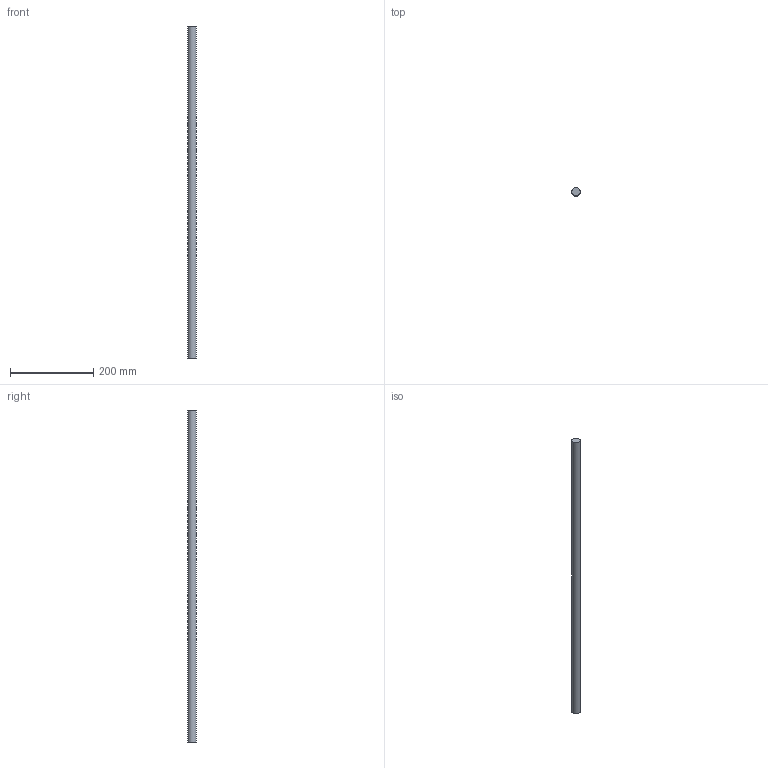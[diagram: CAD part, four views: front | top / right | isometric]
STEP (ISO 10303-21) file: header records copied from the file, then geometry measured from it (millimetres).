
FILE_DESCRIPTION(/* description */ (''),/* implementation_level */ '2;1');
FILE_NAME(/* name */ 'C:\Users\David\Desktop\stepFiles\Profilfuehrung\WF20x800.stp',/* time_stamp */ '2018-06-24T15:49:03+02:00',/* author */ ('David'),/* organization */ (''),/* preprocessor_version */ 'ST-DEVELOPER v17',/* originating_system */ 'Autodesk Inventor 2019',/* authorisation */ '');
FILE_SCHEMA (('AUTOMOTIVE_DESIGN { 1 0 10303 214 3 1 1 }'));
Length unit declared in the file: millimetre
Products named in the file (1): Wellenfuehrung
Bounding box: 20 x 20 x 800 mm (x, y, z)
Volume: 251327.4 mm3; surface area: 50893.8 mm2
Topology: 1 solids, 1 shells, 3 faces, 3 edges, 2 vertices
Faces by surface type: plane 2, cylinder 1
Full cylindrical faces by diameter (mm): 20 x1
Entity records: 98 total; most frequent: DIRECTION 13, CARTESIAN_POINT 9, ORIENTED_EDGE 6, AXIS2_PLACEMENT_3D 6, FACE_OUTER_BOUND 3, EDGE_LOOP 3, EDGE_CURVE 3, ADVANCED_FACE 3
